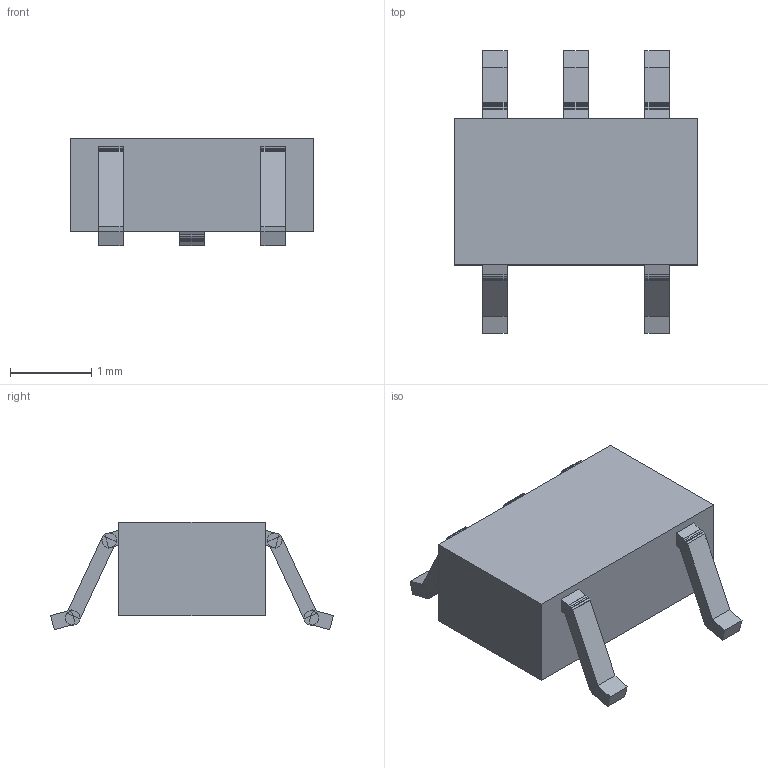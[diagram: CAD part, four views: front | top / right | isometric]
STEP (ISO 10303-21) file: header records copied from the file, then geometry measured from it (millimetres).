
FILE_DESCRIPTION(('FreeCAD Model'),'2;1');
FILE_NAME('Open CASCADE Shape Model','2021-06-28T19:52:24',('Author'),( ''),'Open CASCADE STEP processor 7.5','FreeCAD','Unknown');
FILE_SCHEMA(('AUTOMOTIVE_DESIGN { 1 0 10303 214 1 1 1 1 }'));
Length unit declared in the file: millimetre
Products named in the file (1): Group006
Bounding box: 3 x 3.49 x 1.32 mm (x, y, z)
Volume: 6.6 mm3; surface area: 28.7 mm2
Topology: 1 solids, 1 shells, 286 faces, 967 edges, 688 vertices
Faces by surface type: plane 286
Entity records: 24928 total; most frequent: CARTESIAN_POINT 3996, DIRECTION 3355, LINE 2781, VECTOR 2781, ORIENTED_EDGE 1934, PCURVE 1934, DEFINITIONAL_REPRESENTATION 1934, EDGE_CURVE 967
